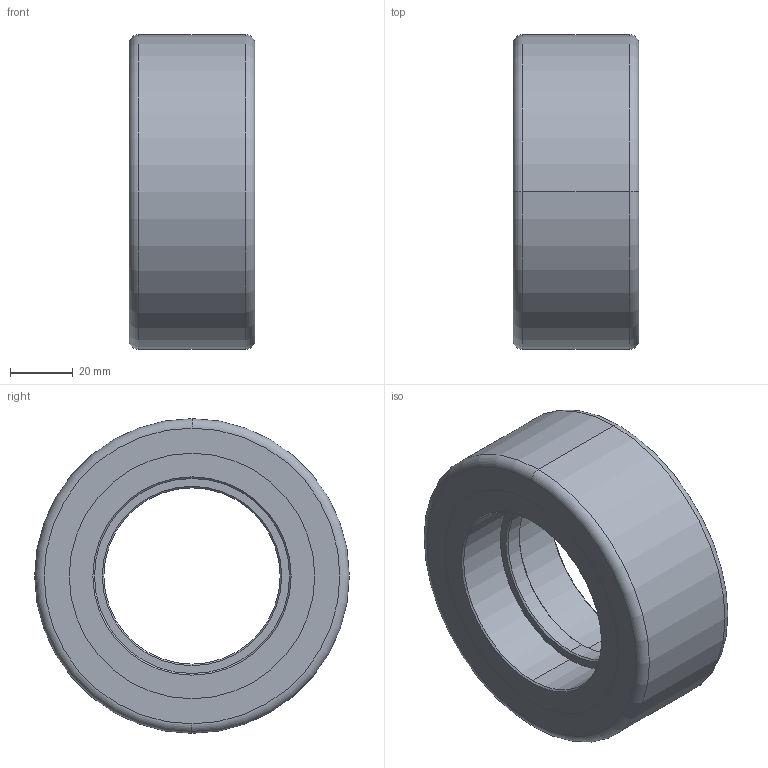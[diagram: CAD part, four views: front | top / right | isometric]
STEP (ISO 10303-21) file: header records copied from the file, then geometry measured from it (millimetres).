
FILE_DESCRIPTION (( 'STEP AP214' ), '1' );
FILE_NAME ('12037604180203.STEP', '2026-07-30T08:03:21', ( 'chenjinwen' ), ( '' ), 'SwSTEP 2.0', 'SolidWorks 2026', '' );
FILE_SCHEMA (( 'AUTOMOTIVE_DESIGN' ));
Length unit declared in the file: millimetre
Products named in the file (1): 12037604180203
Bounding box: 40 x 100 x 100 mm (x, y, z)
Volume: 195442.3 mm3; surface area: 29993.5 mm2
Topology: 1 solids, 1 shells, 26 faces, 52 edges, 32 vertices
Faces by surface type: cylinder 8, cone 8, plane 6, torus 4
Entity records: 715 total; most frequent: DIRECTION 142, CARTESIAN_POINT 111, ORIENTED_EDGE 104, AXIS2_PLACEMENT_3D 63, EDGE_CURVE 52, CIRCLE 36, VERTEX_POINT 32, EDGE_LOOP 32
